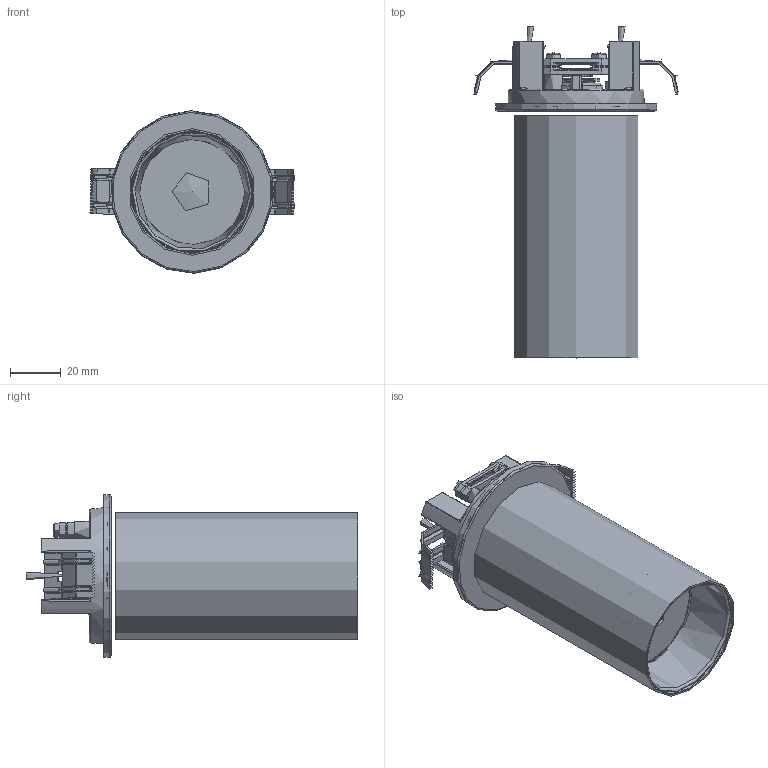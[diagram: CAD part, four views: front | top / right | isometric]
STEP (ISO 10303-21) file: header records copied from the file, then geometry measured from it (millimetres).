
FILE_DESCRIPTION(/* description */ (''),/* implementation_level */ '2;1');
FILE_NAME(/* name */ 'S:\UFFICIO TECNICO 2019\PRODOTTI ROTALIANA\SOUVLAKI\CONFIGURATORE\FILES X CONFIGURATORE\ipt INVENTOR\1SVH5.stp',/* time_stamp */ '2024-03-14T08:51:52+01:00',/* author */ ('mtesta'),/* organization */ (''),/* preprocessor_version */ 'ST-DEVELOPER v18.1',/* originating_system */ 'Autodesk Inventor 2021',/* authorisation */ '');
FILE_SCHEMA (('AUTOMOTIVE_DESIGN { 1 0 10303 214 3 1 1 }'));
Length unit declared in the file: millimetre
Products named in the file (1): 1SVH5
Bounding box: 80.49 x 130.93 x 64.18 mm (x, y, z)
Volume: 102084.1 mm3; surface area: 85199.9 mm2
Topology: 12 solids, 20 shells, 3386 faces, 9127 edges, 5730 vertices
Faces by surface type: plane 1839, cylinder 570, bspline 549, cone 190, torus 160, sphere 78
Full cylindrical faces by diameter (mm): 1.567 x3, 2.459 x6, 2.5 x6, 2.6 x2, 2.9 x2, 3 x31, 3.2 x6, 3.5 x2, 4 x8, 5 x2, 5.6 x2, 6 x2, 6.5 x2, 8.2 x1, 10 x2, 11.55 x1, 12.012 x1, 13 x2, 15.853 x1, 17 x1, 42 x1, 42.026 x1, 46 x1, 46.5 x1, 47.8 x1, 48 x2, 48.2 x2, 50 x1, 60 x1, 63 x1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
Entity records: 164832 total; most frequent: CARTESIAN_POINT 79398, ORIENTED_EDGE 18032, DIRECTION 15682, EDGE_CURVE 9016, VERTEX_POINT 5727, LINE 5394, VECTOR 5394, AXIS2_PLACEMENT_3D 5144
